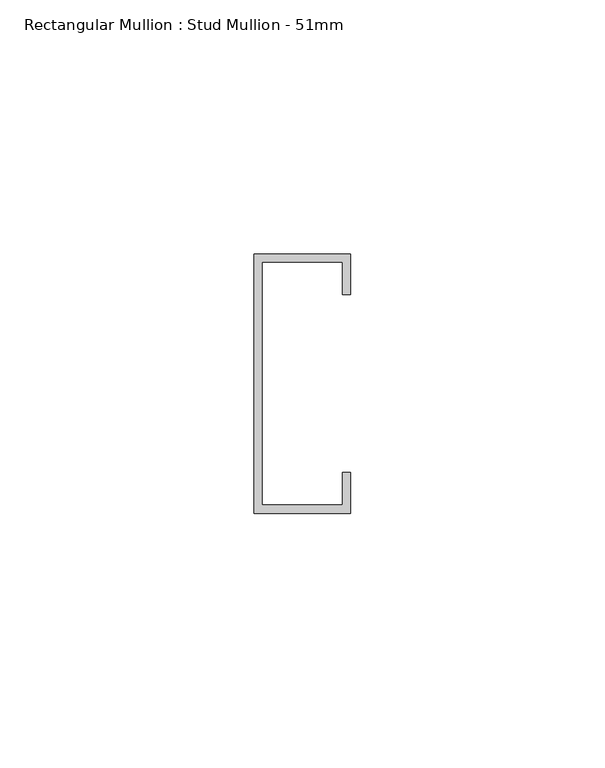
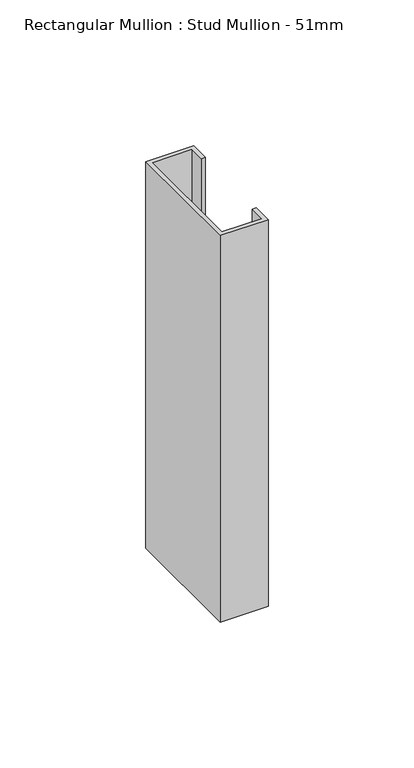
"""IFC4 building model written with IfcOpenShell, lengths in millimetres: member geometry, Rectangular Mullion : Stud Mullion - 51mm."""

from ifc_helpers import new_model, si_unit, frame, origin, place, context, project, spatial, polyline, outline, extrude, source, transform, mapped, element, save


def rectangular_mullion_stud_mullion_51mm_94d3096a(model_context):
    return source(origin(), model_context, "Body", "SweptSolid", [
        extrude(outline(polyline([(0.0, 17.5), (-1.6, 17.5), (-1.6, 23.9), (-17.4, 23.9), (-17.4, -23.9), (-1.6, -23.9), (-1.6, -17.5), (0.0, -17.5), (0.0, -25.5), (-19.0, -25.5), (-19.0, 25.5), (0.0, 25.5), (0.0, 17.5)])), frame((0.0, 0.0, -161.9999997), z_axis=(0.0, 0.0, 1.0), x_axis=(1.0, 0.0, 0.0)), (0.0, 0.0, 1.0), 161.9999997),
    ])


if __name__ == "__main__":
    model = new_model("IFC4")
    model_context = context("Model", 3, world=origin())
    ifc_project = project(units=[si_unit("LENGTHUNIT", "METRE", prefix="MILLI")], contexts=[model_context])
    site = spatial("IfcSite", under=ifc_project)
    building = spatial("IfcBuilding", under=site)
    placement = place(None, origin())
    rectangular_mullion_stud_mullion_51mm_shape = rectangular_mullion_stud_mullion_51mm_94d3096a(model_context)
    element("IfcMember", 1, ObjectType="Rectangular Mullion : Stud Mullion - 51mm", at=placement, inside=building, context=model_context, shape_type="MappedRepresentation", body=[
        mapped(rectangular_mullion_stud_mullion_51mm_shape, transform((0.0, 0.0, 0.0), x_axis=(1.0, 0.0, 0.0), y_axis=(0.0, 1.0, 0.0), z_axis=(0.0, 0.0, 1.0))),
    ])
    save(model, "model.ifc")
